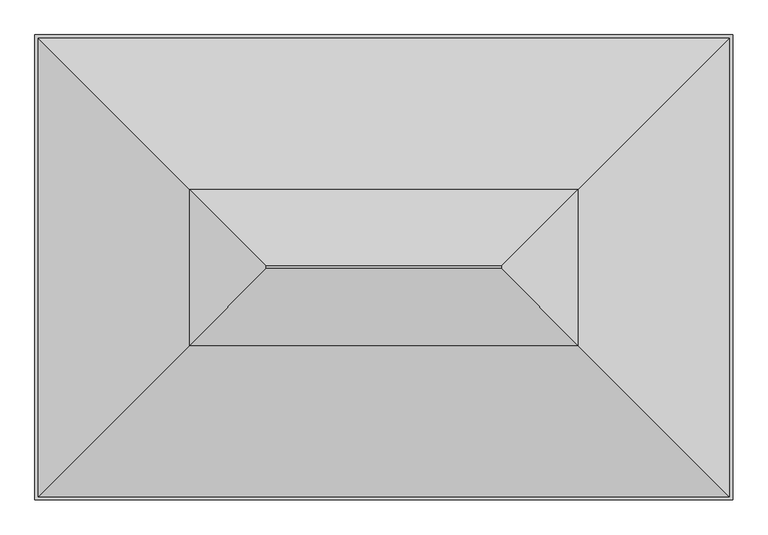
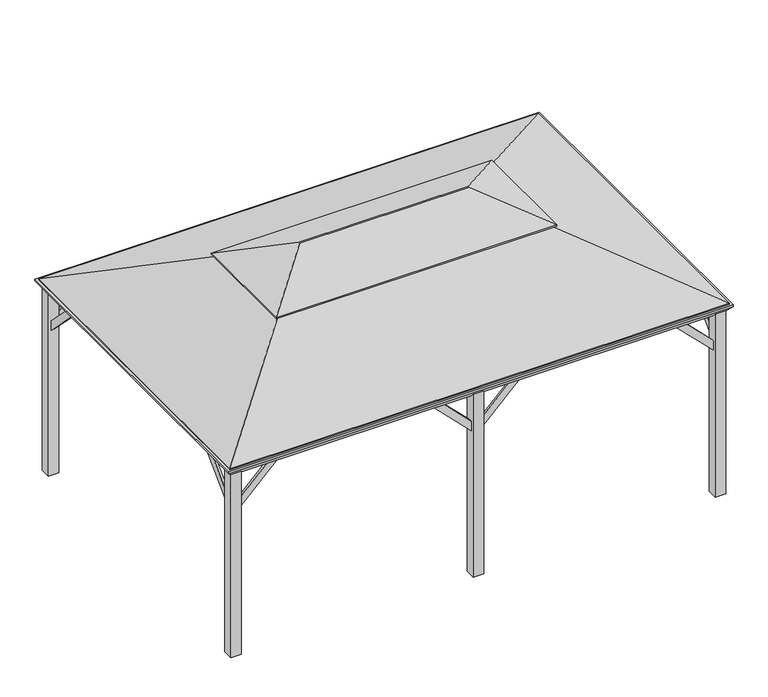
"""IFC4 building model written with IfcOpenShell, lengths in millimetres: proxy geometry."""

from ifc_helpers import new_model, si_unit, frame, origin, place, context, project, spatial, polyline, outline, extrude, faceted_brep, source, transform, mapped, element, save


def generic_models_a0dbac26(model_context):
    return source(origin(), model_context, "Body", "SolidModel", [
        extrude(outline(polyline([(1670.2369265, -2578.1), (2082.8, -2165.5369265), (2082.8, -2273.3), (1778.0, -2578.1), (1670.2369265, -2578.1)])), frame((0.0, -1746.25, 0.0), z_axis=(0.0, 1.0, 0.0), x_axis=(0.0, 0.0, 1.0)), (0.0, 0.0, 1.0), 25.4),
        extrude(outline(polyline([(1670.2369265, -57.15), (1778.0, -57.15), (2082.8, -361.95), (2082.8, -469.7130735), (1670.2369265, -57.15)])), frame((0.0, -1746.25, 0.0), z_axis=(0.0, 1.0, 0.0), x_axis=(0.0, 0.0, 1.0)), (0.0, 0.0, 1.0), 25.4),
        extrude(outline(polyline([(1670.2369265, 2578.1), (1778.0, 2578.1), (2082.8, 2273.3), (2082.8, 2165.5369265), (1670.2369265, 2578.1)])), frame((0.0, -1746.25, 0.0), z_axis=(0.0, 1.0, 0.0), x_axis=(0.0, 0.0, 1.0)), (0.0, 0.0, 1.0), 25.4),
        extrude(outline(polyline([(1670.2369265, 57.15), (2082.8, 469.7130735), (2082.8, 361.95), (1778.0, 57.15), (1670.2369265, 57.15)])), frame((0.0, -1746.25, 0.0), z_axis=(0.0, 1.0, 0.0), x_axis=(0.0, 0.0, 1.0)), (0.0, 0.0, 1.0), 25.4),
        extrude(outline(polyline([(1670.2369265, -2578.1), (2082.8, -2165.5369265), (2082.8, -2273.3), (1778.0, -2578.1), (1670.2369265, -2578.1)])), frame((0.0, 1720.85, 0.0), z_axis=(0.0, 1.0, 0.0), x_axis=(0.0, 0.0, 1.0)), (0.0, 0.0, 1.0), 25.4),
        extrude(outline(polyline([(1670.2369265, -57.15), (1778.0, -57.15), (2082.8, -361.95), (2082.8, -469.7130735), (1670.2369265, -57.15)])), frame((0.0, 1720.85, 0.0), z_axis=(0.0, 1.0, 0.0), x_axis=(0.0, 0.0, 1.0)), (0.0, 0.0, 1.0), 25.4),
        extrude(outline(polyline([(1670.2369265, 2578.1), (1778.0, 2578.1), (2082.8, 2273.3), (2082.8, 2165.5369265), (1670.2369265, 2578.1)])), frame((0.0, 1720.85, 0.0), z_axis=(0.0, 1.0, 0.0), x_axis=(0.0, 0.0, 1.0)), (0.0, 0.0, 1.0), 25.4),
        extrude(outline(polyline([(1670.2369265, 57.15), (2082.8, 469.7130735), (2082.8, 361.95), (1778.0, 57.15), (1670.2369265, 57.15)])), frame((0.0, 1720.85, 0.0), z_axis=(0.0, 1.0, 0.0), x_axis=(0.0, 0.0, 1.0)), (0.0, 0.0, 1.0), 25.4),
        extrude(outline(polyline([(1663.7, 1670.2369265), (1251.1369265, 2082.8), (1358.9, 2082.8), (1663.7, 1778.0), (1663.7, 1670.2369265)])), frame((2635.25, 0.0, 0.0), z_axis=(1.0, 0.0, 0.0), x_axis=(0.0, 1.0, 0.0)), (0.0, 0.0, 1.0), 25.4),
        extrude(outline(polyline([(-1663.7, 1670.2369265), (-1663.7, 1778.0), (-1358.9, 2082.8), (-1251.1369265, 2082.8), (-1663.7, 1670.2369265)])), frame((2635.25, 0.0, 0.0), z_axis=(1.0, 0.0, 0.0), x_axis=(0.0, 1.0, 0.0)), (0.0, 0.0, 1.0), 25.4),
        extrude(outline(polyline([(1663.7, 1670.2369265), (1251.1369265, 2082.8), (1358.9, 2082.8), (1663.7, 1778.0), (1663.7, 1670.2369265)])), frame((-2660.65, 0.0, 0.0), z_axis=(1.0, 0.0, 0.0), x_axis=(0.0, 1.0, 0.0)), (0.0, 0.0, 1.0), 25.4),
        extrude(outline(polyline([(-1663.7, 1670.2369265), (-1663.7, 1778.0), (-1358.9, 2082.8), (-1251.1369265, 2082.8), (-1663.7, 1670.2369265)])), frame((-2660.65, 0.0, 0.0), z_axis=(1.0, 0.0, 0.0), x_axis=(0.0, 1.0, 0.0)), (0.0, 0.0, 1.0), 25.4),
        faceted_brep([(2743.2, -1828.8, 2184.4), (2743.2, 1828.8, 2184.4), (-2743.2, 1828.8, 2184.4), (-2743.2, -1828.8, 2184.4), (2578.1, 1663.7, 2184.4), (2635.25, 1663.7, 2184.4), (2635.25, -1663.7, 2184.4), (2578.1, -1663.7, 2184.4), (2578.1, -1720.85, 2184.4), (-2578.1, -1720.85, 2184.4), (-2578.1, -1663.7, 2184.4), (-2635.25, -1663.7, 2184.4), (-2635.25, 1663.7, 2184.4), (-2578.1, 1663.7, 2184.4), (-2578.1, 1720.85, 2184.4), (2578.1, 1720.85, 2184.4), (2578.1, 1663.7, 0.0), (2578.1, 1778.0, 0.0), (2692.4, 1778.0, 0.0), (2692.4, 1663.7, 0.0), (2692.4, 1663.7, 2105.3136364), (2673.35, 1663.7, 2082.8), (2635.25, 1663.7, 2082.8), (2692.4, 1778.0, 2105.3136364), (2578.1, 1778.0, 2105.3136364), (2578.1, 1720.85, 2082.8), (2578.1, 1758.95, 2082.8), (2673.35, -1663.7, 2082.8), (2635.25, -1663.7, 2082.8), (-2578.1, 1720.85, 2082.8), (-2578.1, 1758.95, 2082.8), (2578.1, -1720.85, 2082.8), (2578.1, -1758.95, 2082.8), (-2578.1, -1758.95, 2082.8), (-2578.1, -1720.85, 2082.8), (-2635.25, -1663.7, 2082.8), (-2673.35, -1663.7, 2082.8), (-2673.35, 1663.7, 2082.8), (-2635.25, 1663.7, 2082.8), (2743.2, 1828.8, 2165.35), (2743.2, -1828.8, 2165.35), (-2743.2, -1828.8, 2165.35), (-2743.2, 1828.8, 2165.35), (2692.4, -1663.7, 0.0), (2692.4, -1778.0, 0.0), (2578.1, -1778.0, 0.0), (2578.1, -1663.7, 0.0), (2692.4, -1663.7, 2105.3136364), (2578.1, -1778.0, 2105.3136364), (2692.4, -1778.0, 2105.3136364), (-2578.1, -1663.7, 0.0), (-2578.1, -1778.0, 0.0), (-2692.4, -1778.0, 0.0), (-2692.4, -1663.7, 0.0), (-2692.4, -1663.7, 2105.3136364), (-2692.4, -1778.0, 2105.3136364), (-2578.1, -1778.0, 2105.3136364), (-2692.4, 1663.7, 0.0), (-2692.4, 1778.0, 0.0), (-2578.1, 1778.0, 0.0), (-2578.1, 1663.7, 0.0), (-2692.4, 1663.7, 2105.3136364), (-2578.1, 1778.0, 2105.3136364), (-2692.4, 1778.0, 2105.3136364)], [[[0, 1, 2, 3], [4, 5, 6, 7, 8, 9, 10, 11, 12, 13, 14, 15]], [[16, 17, 18, 19]], [[16, 19, 20, 21, 22, 5, 4]], [[19, 18, 23, 20]], [[18, 17, 24, 23]], [[17, 16, 4, 15, 25, 26, 24]], [[22, 21, 27, 28]], [[26, 25, 29, 30]], [[31, 32, 33, 34]], [[35, 36, 37, 38]], [[25, 15, 14, 29]], [[39, 1, 0, 40]], [[40, 0, 3, 41]], [[41, 3, 2, 42]], [[1, 39, 42, 2]], [[43, 44, 45, 46]], [[43, 46, 7, 6, 28, 27, 47]], [[46, 45, 48, 32, 31, 8, 7]], [[45, 44, 49, 48]], [[44, 43, 47, 49]], [[50, 51, 52, 53]], [[50, 53, 54, 36, 35, 11, 10]], [[53, 52, 55, 54]], [[52, 51, 56, 55]], [[51, 50, 10, 9, 34, 33, 56]], [[57, 58, 59, 60]], [[57, 60, 13, 12, 38, 37, 61]], [[60, 59, 62, 30, 29, 14, 13]], [[59, 58, 63, 62]], [[58, 57, 61, 63]], [[5, 22, 28, 6]], [[8, 31, 34, 9]], [[11, 35, 38, 12]], [[39, 40, 49, 47, 27, 21, 20, 23]], [[40, 41, 55, 56, 33, 32, 48, 49]], [[41, 42, 63, 61, 37, 36, 54, 55]], [[42, 39, 23, 24, 26, 30, 62, 63]]]),
        extrude(outline(polyline([(1778.0, 0.0), (1663.7, 0.0), (1663.7, 2184.4), (1720.85, 2184.4), (1720.85, 2082.8), (1758.95, 2082.8), (1778.0, 2105.3136364), (1778.0, 0.0)])), frame((-57.15, 0.0, 0.0), z_axis=(1.0, 0.0, 0.0), x_axis=(0.0, 1.0, 0.0)), (0.0, 0.0, 1.0), 114.3),
        extrude(outline(polyline([(-1663.7, 0.0), (-1778.0, 0.0), (-1778.0, 2105.3136364), (-1758.95, 2082.8), (-1720.85, 2082.8), (-1720.85, 2184.4), (-1663.7, 2184.4), (-1663.7, 0.0)])), frame((-57.15, 0.0, 0.0), z_axis=(1.0, 0.0, 0.0), x_axis=(0.0, 1.0, 0.0)), (0.0, 0.0, 1.0), 114.3),
        faceted_brep([(924.5541406, 10.1541406, 3073.4), (-924.5541406, 10.1541406, 3073.4), (-924.5541406, -10.1541406, 3073.4), (924.5541406, -10.1541406, 3073.4), (-1528.0581406, 613.6581406, 2794.0), (-1528.0581406, -613.6581406, 2794.0), (1528.0581406, -613.6581406, 2794.0), (1528.0581406, 613.6581406, 2794.0), (1528.0581406, 613.6581406, 2781.3), (1528.0581406, -613.6581406, 2781.3), (-1528.0581406, -613.6581406, 2781.3), (-1528.0581406, 613.6581406, 2781.3), (924.5541406, 10.1541406, 3060.7), (924.5541406, -10.1541406, 3060.7), (-924.5541406, -10.1541406, 3060.7), (-924.5541406, 10.1541406, 3060.7)], [[[0, 1, 2, 3]], [[2, 1, 4, 5]], [[0, 3, 6, 7]], [[8, 7, 6, 9]], [[9, 6, 5, 10]], [[10, 5, 4, 11]], [[7, 8, 11, 4]], [[12, 13, 14, 15]], [[15, 14, 10, 11]], [[13, 12, 8, 9]], [[1, 0, 7, 4]], [[3, 2, 5, 6]], [[12, 15, 11, 8]], [[14, 13, 9, 10]]]),
        faceted_brep([(-2717.7941406, 1803.3941406, 2197.1), (-1401.0581406, 486.6581406, 2806.7), (1401.0581406, 486.6581406, 2806.7), (2717.7941406, 1803.3941406, 2197.1), (-2717.7941406, -1803.3941406, 2197.1), (-1401.0581406, -486.6581406, 2806.7), (2717.7941406, -1803.3941406, 2197.1), (1401.0581406, -486.6581406, 2806.7), (2717.7941406, 1803.3941406, 2184.4), (2717.7941406, -1803.3941406, 2184.4), (-2717.7941406, -1803.3941406, 2184.4), (-2717.7941406, 1803.3941406, 2184.4), (1401.0581406, 486.6581406, 2794.0), (-1401.0581406, 486.6581406, 2794.0), (-1401.0581406, -486.6581406, 2794.0), (1401.0581406, -486.6581406, 2794.0)], [[[0, 1, 2, 3]], [[1, 0, 4, 5]], [[5, 4, 6, 7]], [[3, 2, 7, 6]], [[8, 3, 6, 9]], [[9, 6, 4, 10]], [[10, 4, 0, 11]], [[3, 8, 11, 0]], [[8, 12, 13, 11]], [[11, 13, 14, 10]], [[10, 14, 15, 9]], [[12, 8, 9, 15]], [[7, 2, 12, 15]], [[5, 7, 15, 14]], [[1, 5, 14, 13]], [[2, 1, 13, 12]]]),
    ])


if __name__ == "__main__":
    model = new_model("IFC4")
    model_context = context("Model", 3, world=origin())
    ifc_project = project(units=[si_unit("LENGTHUNIT", "METRE", prefix="MILLI")], contexts=[model_context])
    site = spatial("IfcSite", under=ifc_project)
    building = spatial("IfcBuilding", under=site)
    placement = place(None, origin())
    generic_models_shape = generic_models_a0dbac26(model_context)
    element("IfcBuildingElementProxy", 1, Name="Gazebo : 18'-0\" x 12'-0\" (Middle Columns - Braces)", ObjectType="Gazebo : 18'-0\" x 12'-0\" (Middle Columns - Braces)", at=placement, inside=building, context=model_context, shape_type="MappedRepresentation", body=[
        mapped(generic_models_shape, transform((0.0, 0.0, 0.0), x_axis=(1.0, 0.0, 0.0), y_axis=(0.0, 1.0, 0.0), z_axis=(0.0, 0.0, 1.0))),
    ])
    save(model, "model.ifc")
